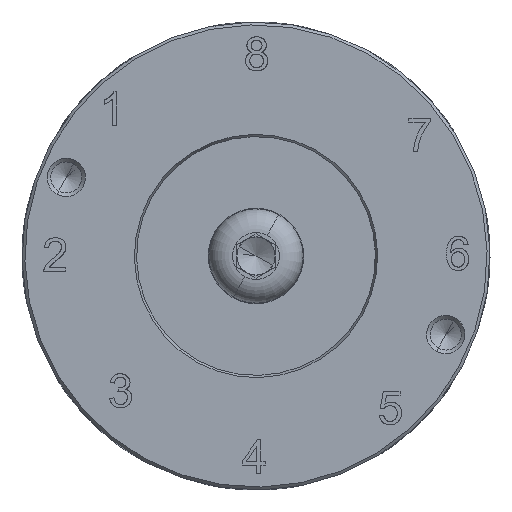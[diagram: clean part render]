
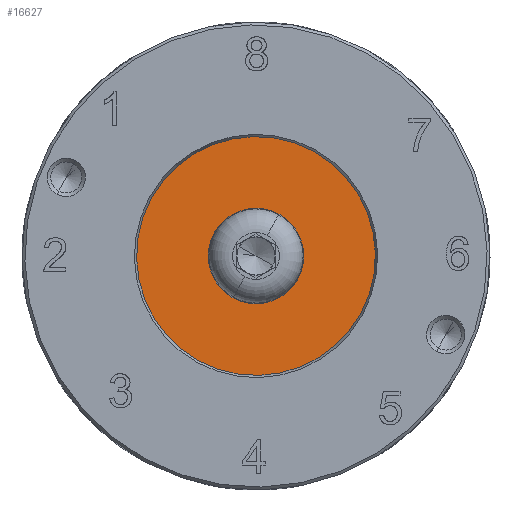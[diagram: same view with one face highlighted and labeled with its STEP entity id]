
A CAD part, front view. The second image highlights one B-rep face of the part: STEP entity #16627.
In plain terms, the highlighted planar face has unit normal (0, -1, 0).
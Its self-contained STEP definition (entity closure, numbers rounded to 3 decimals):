
#14608=AXIS2_PLACEMENT_3D('Circle Axis2P3D',#14606,#14607,$) ;
#14627=AXIS2_PLACEMENT_3D('Circle Axis2P3D',#14625,#14626,$) ;
#16585=AXIS2_PLACEMENT_3D('Circle Axis2P3D',#16583,#16584,$) ;
#16604=AXIS2_PLACEMENT_3D('Circle Axis2P3D',#16602,#16603,$) ;
#16617=AXIS2_PLACEMENT_3D('Plane Axis2P3D',#16614,#16615,#16616) ;
#14603=CARTESIAN_POINT('Vertex',(-10.97,4.5,5.993)) ;
#14606=CARTESIAN_POINT('Axis2P3D Location',(0.,4.5,0.)) ;
#14610=CARTESIAN_POINT('Vertex',(10.97,4.5,-5.993)) ;
#14625=CARTESIAN_POINT('Axis2P3D Location',(0.,4.5,0.)) ;
#16580=CARTESIAN_POINT('Vertex',(2.282,4.5,-1.247)) ;
#16583=CARTESIAN_POINT('Axis2P3D Location',(0.,4.5,0.)) ;
#16587=CARTESIAN_POINT('Vertex',(-2.282,4.5,1.247)) ;
#16602=CARTESIAN_POINT('Axis2P3D Location',(0.,4.5,0.)) ;
#16614=CARTESIAN_POINT('Axis2P3D Location',(2.6,4.5,0.)) ;
#14607=DIRECTION('Axis2P3D Direction',(-0.,1.,0.)) ;
#14626=DIRECTION('Axis2P3D Direction',(-0.,1.,0.)) ;
#16584=DIRECTION('Axis2P3D Direction',(-0.,1.,0.)) ;
#16603=DIRECTION('Axis2P3D Direction',(-0.,1.,0.)) ;
#16615=DIRECTION('Axis2P3D Direction',(-0.,1.,0.)) ;
#16616=DIRECTION('Axis2P3D XDirection',(1.,0.,0.)) ;
#16620=ORIENTED_EDGE('',*,*,#14629,.F.) ;
#16621=ORIENTED_EDGE('',*,*,#14612,.F.) ;
#16624=ORIENTED_EDGE('',*,*,#16589,.T.) ;
#16625=ORIENTED_EDGE('',*,*,#16606,.T.) ;
#16626=FACE_BOUND('',#16623,.T.) ;
#16627=ADVANCED_FACE('BODY',(#16622,#16626),#16618,.F.) ;
#14609=CIRCLE('generated circle',#14608,12.5) ;
#14628=CIRCLE('generated circle',#14627,12.5) ;
#16586=CIRCLE('generated circle',#16585,2.6) ;
#16605=CIRCLE('generated circle',#16604,2.6) ;
#14612=EDGE_CURVE('',#14604,#14611,#14609,.T.) ;
#14629=EDGE_CURVE('',#14611,#14604,#14628,.T.) ;
#16589=EDGE_CURVE('',#16588,#16581,#16586,.T.) ;
#16606=EDGE_CURVE('',#16581,#16588,#16605,.T.) ;
#16619=EDGE_LOOP('',(#16620,#16621)) ;
#16623=EDGE_LOOP('',(#16624,#16625)) ;
#16622=FACE_OUTER_BOUND('',#16619,.T.) ;
#16618=PLANE('Plane',#16617) ;
#14604=VERTEX_POINT('',#14603) ;
#14611=VERTEX_POINT('',#14610) ;
#16581=VERTEX_POINT('',#16580) ;
#16588=VERTEX_POINT('',#16587) ;
